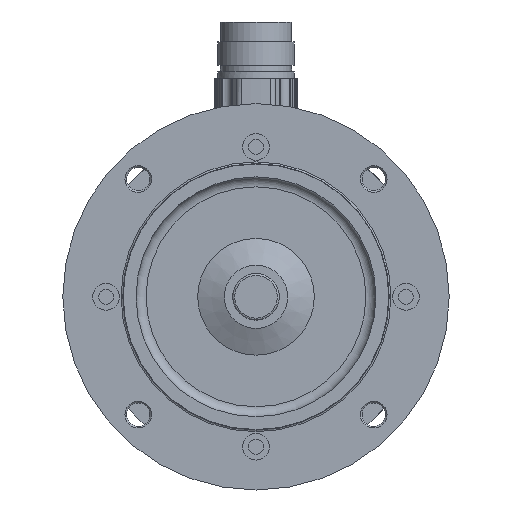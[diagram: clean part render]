
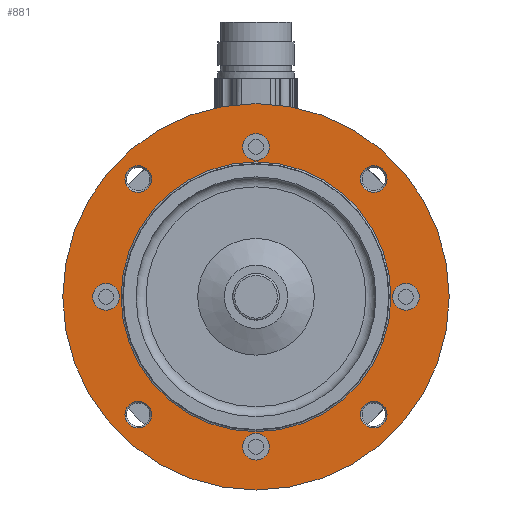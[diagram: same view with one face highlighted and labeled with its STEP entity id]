
A CAD part, front view. The second image highlights one B-rep face of the part: STEP entity #881.
In plain terms, the highlighted planar face has unit normal (0, -1, 0).
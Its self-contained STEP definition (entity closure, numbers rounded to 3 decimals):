
#605=PLANE('',#4389);
#688=FACE_OUTER_BOUND('',#1686,.T.);
#881=ADVANCED_FACE('',(#1343,#1344,#1345,#1346,#1347,#1348,#1349,#1350,#1351,
#688),#605,.T.);
#1343=FACE_BOUND('',#1677,.T.);
#1344=FACE_BOUND('',#1678,.T.);
#1345=FACE_BOUND('',#1679,.T.);
#1346=FACE_BOUND('',#1680,.T.);
#1347=FACE_BOUND('',#1681,.T.);
#1348=FACE_BOUND('',#1682,.T.);
#1349=FACE_BOUND('',#1683,.T.);
#1350=FACE_BOUND('',#1684,.T.);
#1351=FACE_BOUND('',#1685,.T.);
#1677=EDGE_LOOP('',(#2199));
#1678=EDGE_LOOP('',(#2200));
#1679=EDGE_LOOP('',(#2201));
#1680=EDGE_LOOP('',(#2202));
#1681=EDGE_LOOP('',(#2203));
#1682=EDGE_LOOP('',(#2204));
#1683=EDGE_LOOP('',(#2205));
#1684=EDGE_LOOP('',(#2206));
#1685=EDGE_LOOP('',(#2207));
#1686=EDGE_LOOP('',(#2208));
#2199=ORIENTED_EDGE('',*,*,#3536,.T.);
#2200=ORIENTED_EDGE('',*,*,#3537,.T.);
#2201=ORIENTED_EDGE('',*,*,#3538,.T.);
#2202=ORIENTED_EDGE('',*,*,#3539,.T.);
#2203=ORIENTED_EDGE('',*,*,#3540,.T.);
#2204=ORIENTED_EDGE('',*,*,#3541,.T.);
#2205=ORIENTED_EDGE('',*,*,#3542,.T.);
#2206=ORIENTED_EDGE('',*,*,#3543,.T.);
#2207=ORIENTED_EDGE('',*,*,#3544,.T.);
#2208=ORIENTED_EDGE('',*,*,#3545,.F.);
#3148=VERTEX_POINT('',#6514);
#3149=VERTEX_POINT('',#6516);
#3150=VERTEX_POINT('',#6518);
#3151=VERTEX_POINT('',#6520);
#3152=VERTEX_POINT('',#6522);
#3153=VERTEX_POINT('',#6524);
#3154=VERTEX_POINT('',#6526);
#3155=VERTEX_POINT('',#6528);
#3156=VERTEX_POINT('',#6530);
#3157=VERTEX_POINT('',#6532);
#3536=EDGE_CURVE('',#3148,#3148,#4011,.T.);
#3537=EDGE_CURVE('',#3149,#3149,#4012,.T.);
#3538=EDGE_CURVE('',#3150,#3150,#4013,.T.);
#3539=EDGE_CURVE('',#3151,#3151,#4014,.T.);
#3540=EDGE_CURVE('',#3152,#3152,#4015,.T.);
#3541=EDGE_CURVE('',#3153,#3153,#4016,.T.);
#3542=EDGE_CURVE('',#3154,#3154,#4017,.T.);
#3543=EDGE_CURVE('',#3155,#3155,#4018,.T.);
#3544=EDGE_CURVE('',#3156,#3156,#4019,.T.);
#3545=EDGE_CURVE('',#3157,#3157,#4020,.T.);
#4011=CIRCLE('',#4379,40.5);
#4012=CIRCLE('',#4380,4.);
#4013=CIRCLE('',#4381,4.);
#4014=CIRCLE('',#4382,4.);
#4015=CIRCLE('',#4383,4.);
#4016=CIRCLE('',#4384,4.);
#4017=CIRCLE('',#4385,4.);
#4018=CIRCLE('',#4386,4.);
#4019=CIRCLE('',#4387,4.);
#4020=CIRCLE('',#4388,58.);
#4379=AXIS2_PLACEMENT_3D('',#6513,#5064,#5065);
#4380=AXIS2_PLACEMENT_3D('',#6515,#5066,#5067);
#4381=AXIS2_PLACEMENT_3D('',#6517,#5068,#5069);
#4382=AXIS2_PLACEMENT_3D('',#6519,#5070,#5071);
#4383=AXIS2_PLACEMENT_3D('',#6521,#5072,#5073);
#4384=AXIS2_PLACEMENT_3D('',#6523,#5074,#5075);
#4385=AXIS2_PLACEMENT_3D('',#6525,#5076,#5077);
#4386=AXIS2_PLACEMENT_3D('',#6527,#5078,#5079);
#4387=AXIS2_PLACEMENT_3D('',#6529,#5080,#5081);
#4388=AXIS2_PLACEMENT_3D('',#6531,#5082,#5083);
#4389=AXIS2_PLACEMENT_3D('',#6533,#5084,#5085);
#5064=DIRECTION('',(0.,1.,0.));
#5065=DIRECTION('',(0.,0.,-1.));
#5066=DIRECTION('',(0.,1.,0.));
#5067=DIRECTION('',(-1.,0.,0.));
#5068=DIRECTION('',(0.,1.,0.));
#5069=DIRECTION('',(0.,0.,-1.));
#5070=DIRECTION('',(0.,1.,0.));
#5071=DIRECTION('',(1.,0.,0.));
#5072=DIRECTION('',(0.,1.,0.));
#5073=DIRECTION('',(0.,0.,1.));
#5074=DIRECTION('',(0.,1.,0.));
#5075=DIRECTION('',(0.,0.,-1.));
#5076=DIRECTION('',(0.,1.,0.));
#5077=DIRECTION('',(0.,0.,-1.));
#5078=DIRECTION('',(0.,1.,0.));
#5079=DIRECTION('',(0.,0.,-1.));
#5080=DIRECTION('',(0.,1.,0.));
#5081=DIRECTION('',(0.,0.,-1.));
#5082=DIRECTION('',(0.,1.,0.));
#5083=DIRECTION('',(0.,0.,1.));
#5084=DIRECTION('',(0.,-1.,0.));
#5085=DIRECTION('',(0.,0.,-1.));
#6513=CARTESIAN_POINT('',(0.,0.,0.));
#6514=CARTESIAN_POINT('',(0.,0.,-40.5));
#6515=CARTESIAN_POINT('',(-45.,0.,0.));
#6516=CARTESIAN_POINT('',(-49.,0.,0.));
#6517=CARTESIAN_POINT('',(0.,0.,-45.));
#6518=CARTESIAN_POINT('',(0.,0.,-49.));
#6519=CARTESIAN_POINT('',(45.,0.,0.));
#6520=CARTESIAN_POINT('',(49.,0.,0.));
#6521=CARTESIAN_POINT('',(0.,0.,45.));
#6522=CARTESIAN_POINT('',(0.,0.,49.));
#6523=CARTESIAN_POINT('',(35.355,0.,-35.355));
#6524=CARTESIAN_POINT('',(35.355,0.,-39.355));
#6525=CARTESIAN_POINT('',(35.355,0.,35.355));
#6526=CARTESIAN_POINT('',(35.355,0.,31.355));
#6527=CARTESIAN_POINT('',(-35.355,0.,35.355));
#6528=CARTESIAN_POINT('',(-35.355,0.,31.355));
#6529=CARTESIAN_POINT('',(-35.355,0.,-35.355));
#6530=CARTESIAN_POINT('',(-35.355,0.,-39.355));
#6531=CARTESIAN_POINT('',(0.,0.,0.));
#6532=CARTESIAN_POINT('',(0.,0.,58.));
#6533=CARTESIAN_POINT('',(0.,0.,0.));
